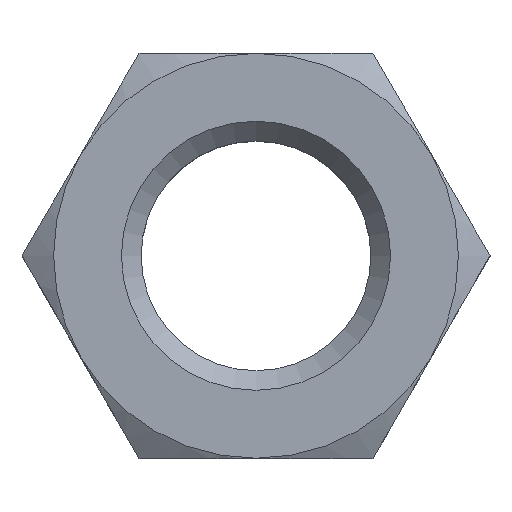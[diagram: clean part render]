
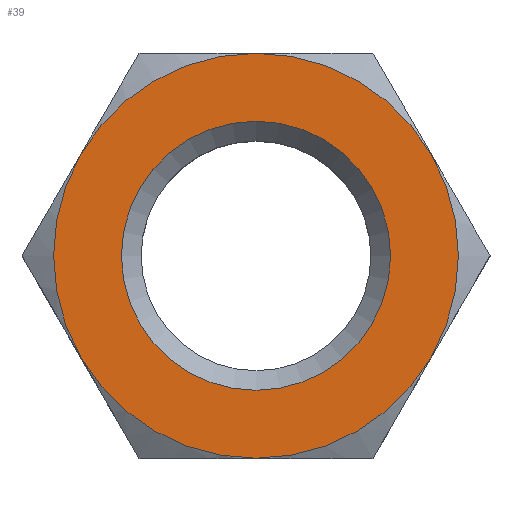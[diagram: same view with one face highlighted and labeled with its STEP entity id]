
A CAD part, top view. The second image highlights one B-rep face of the part: STEP entity #39.
In plain terms, the highlighted planar face has unit normal (0, 0, 1).
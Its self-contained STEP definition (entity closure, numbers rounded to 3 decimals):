
#39 = ADVANCED_FACE( '', ( #83, #84 ), #85, .T. );
#83 = FACE_BOUND( '', #136, .T. );
#84 = FACE_OUTER_BOUND( '', #137, .T. );
#85 = PLANE( '', #138 );
#136 = EDGE_LOOP( '', ( #188 ) );
#137 = EDGE_LOOP( '', ( #189 ) );
#138 = AXIS2_PLACEMENT_3D( '', #190, #191, #192 );
#188 = ORIENTED_EDGE( '', *, *, #285, .T. );
#189 = ORIENTED_EDGE( '', *, *, #286, .F. );
#190 = CARTESIAN_POINT( '', ( -5.196, -9., 10.8 ) );
#191 = DIRECTION( '', ( 0., 0., 1. ) );
#192 = DIRECTION( '', ( 1., 0., 0. ) );
#285 = EDGE_CURVE( '', #326, #326, #327, .F. );
#286 = EDGE_CURVE( '', #328, #328, #329, .T. );
#326 = VERTEX_POINT( '', #405 );
#327 = CIRCLE( '', #406, 5.975 );
#328 = VERTEX_POINT( '', #407 );
#329 = CIRCLE( '', #408, 8.99 );
#405 = CARTESIAN_POINT( '', ( 5.975, 0., 10.8 ) );
#406 = AXIS2_PLACEMENT_3D( '', #558, #559, #560 );
#407 = CARTESIAN_POINT( '', ( -8.99, 0., 10.8 ) );
#408 = AXIS2_PLACEMENT_3D( '', #561, #562, #563 );
#558 = CARTESIAN_POINT( '', ( 0., 0., 10.8 ) );
#559 = DIRECTION( '', ( 0., 0., 1. ) );
#560 = DIRECTION( '', ( 1., 0., 0. ) );
#561 = CARTESIAN_POINT( '', ( 0., 0., 10.8 ) );
#562 = DIRECTION( '', ( 0., 0., -1. ) );
#563 = DIRECTION( '', ( -1., 0., 0. ) );
